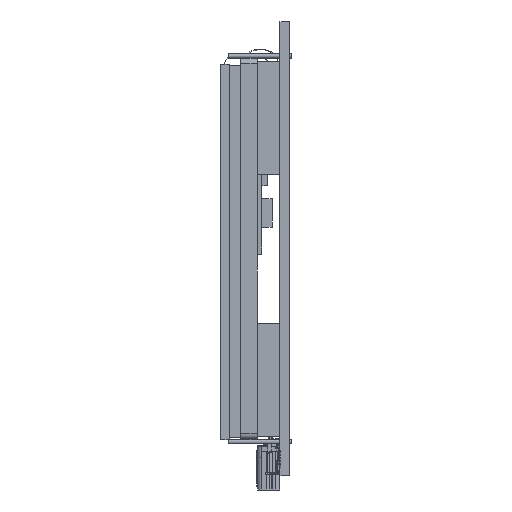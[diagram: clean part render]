
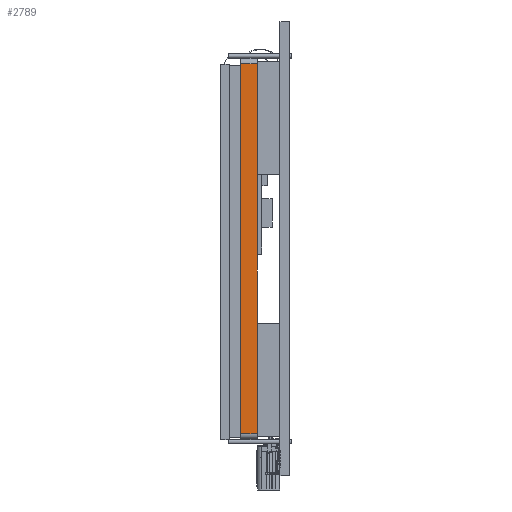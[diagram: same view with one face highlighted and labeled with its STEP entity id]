
A CAD part, left-side view. The second image highlights one B-rep face of the part: STEP entity #2789.
In plain terms, the highlighted planar face has unit normal (-1, 0, 0).
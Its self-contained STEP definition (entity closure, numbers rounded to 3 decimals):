
#75 = EDGE_CURVE ( 'NONE', #12864, #45455, #4308, .T. ) ;
#2789 = ADVANCED_FACE ( 'NONE', ( #50428 ), #39377, .F. ) ;
#3073 = AXIS2_PLACEMENT_3D ( 'NONE', #16402, #44054, #16585 ) ;
#3846 = VECTOR ( 'NONE', #29515, 1000. ) ;
#4308 = LINE ( 'NONE', #43565, #51555 ) ;
#5265 = CARTESIAN_POINT ( 'NONE',  ( -51.19, 5.6, 24.315 ) ) ;
#6386 = VERTEX_POINT ( 'NONE', #5265 ) ;
#7090 = DIRECTION ( 'NONE',  ( 0., 0., 1. ) ) ;
#8696 = CARTESIAN_POINT ( 'NONE',  ( -51.19, 8.55, -21.385 ) ) ;
#10292 = CARTESIAN_POINT ( 'NONE',  ( -51.19, 8.55, -21.385 ) ) ;
#11115 = CARTESIAN_POINT ( 'NONE',  ( -51.19, 8.55, -22.385 ) ) ;
#12864 = VERTEX_POINT ( 'NONE', #18318 ) ;
#15721 = LINE ( 'NONE', #11115, #40036 ) ;
#16136 = ORIENTED_EDGE ( 'NONE', *, *, #75, .T. ) ;
#16274 = ORIENTED_EDGE ( 'NONE', *, *, #41999, .T. ) ;
#16402 = CARTESIAN_POINT ( 'NONE',  ( -51.19, 8.55, -22.385 ) ) ;
#16585 = DIRECTION ( 'NONE',  ( 0., 0., -1. ) ) ;
#16609 = ORIENTED_EDGE ( 'NONE', *, *, #43521, .T. ) ;
#17492 = VECTOR ( 'NONE', #20060, 1000. ) ;
#18318 = CARTESIAN_POINT ( 'NONE',  ( -51.19, 5.6, -21.385 ) ) ;
#19871 = VECTOR ( 'NONE', #23848, 1000. ) ;
#20060 = DIRECTION ( 'NONE',  ( 0., 1., 0. ) ) ;
#21256 = ORIENTED_EDGE ( 'NONE', *, *, #57162, .T. ) ;
#21289 = LINE ( 'NONE', #10292, #19871 ) ;
#23848 = DIRECTION ( 'NONE',  ( 0., -1., 0. ) ) ;
#25157 = VERTEX_POINT ( 'NONE', #31765 ) ;
#25895 = EDGE_CURVE ( 'NONE', #27264, #12864, #21289, .T. ) ;
#27264 = VERTEX_POINT ( 'NONE', #8696 ) ;
#29515 = DIRECTION ( 'NONE',  ( 0., 0., 1. ) ) ;
#29624 = LINE ( 'NONE', #47363, #17492 ) ;
#31765 = CARTESIAN_POINT ( 'NONE',  ( -51.19, 8.55, 43.815 ) ) ;
#33130 = VERTEX_POINT ( 'NONE', #42023 ) ;
#34150 = CARTESIAN_POINT ( 'NONE',  ( -51.19, 5.6, -22.385 ) ) ;
#34486 = CARTESIAN_POINT ( 'NONE',  ( -51.19, 5.6, -22.385 ) ) ;
#36043 = CARTESIAN_POINT ( 'NONE',  ( -51.19, 5.6, -1.885 ) ) ;
#37192 = LINE ( 'NONE', #34486, #47991 ) ;
#39377 = PLANE ( 'NONE',  #3073 ) ;
#40036 = VECTOR ( 'NONE', #43174, 1000. ) ;
#40353 = LINE ( 'NONE', #34150, #3846 ) ;
#41514 = EDGE_LOOP ( 'NONE', ( #16136, #16274, #21256, #16609, #55351, #50620 ) ) ;
#41999 = EDGE_CURVE ( 'NONE', #45455, #6386, #37192, .T. ) ;
#42023 = CARTESIAN_POINT ( 'NONE',  ( -51.19, 5.6, 43.815 ) ) ;
#43174 = DIRECTION ( 'NONE',  ( 0., 0., 1. ) ) ;
#43521 = EDGE_CURVE ( 'NONE', #33130, #25157, #29624, .T. ) ;
#43565 = CARTESIAN_POINT ( 'NONE',  ( -51.19, 5.6, -22.385 ) ) ;
#43950 = DIRECTION ( 'NONE',  ( 0., 0., 1. ) ) ;
#44054 = DIRECTION ( 'NONE',  ( 1., 0., 0. ) ) ;
#45455 = VERTEX_POINT ( 'NONE', #36043 ) ;
#47363 = CARTESIAN_POINT ( 'NONE',  ( -51.19, 8.55, 43.815 ) ) ;
#47991 = VECTOR ( 'NONE', #7090, 1000. ) ;
#50428 = FACE_OUTER_BOUND ( 'NONE', #41514, .T. ) ;
#50620 = ORIENTED_EDGE ( 'NONE', *, *, #25895, .T. ) ;
#51555 = VECTOR ( 'NONE', #43950, 1000. ) ;
#54970 = EDGE_CURVE ( 'NONE', #27264, #25157, #15721, .T. ) ;
#55351 = ORIENTED_EDGE ( 'NONE', *, *, #54970, .F. ) ;
#57162 = EDGE_CURVE ( 'NONE', #6386, #33130, #40353, .T. ) ;
